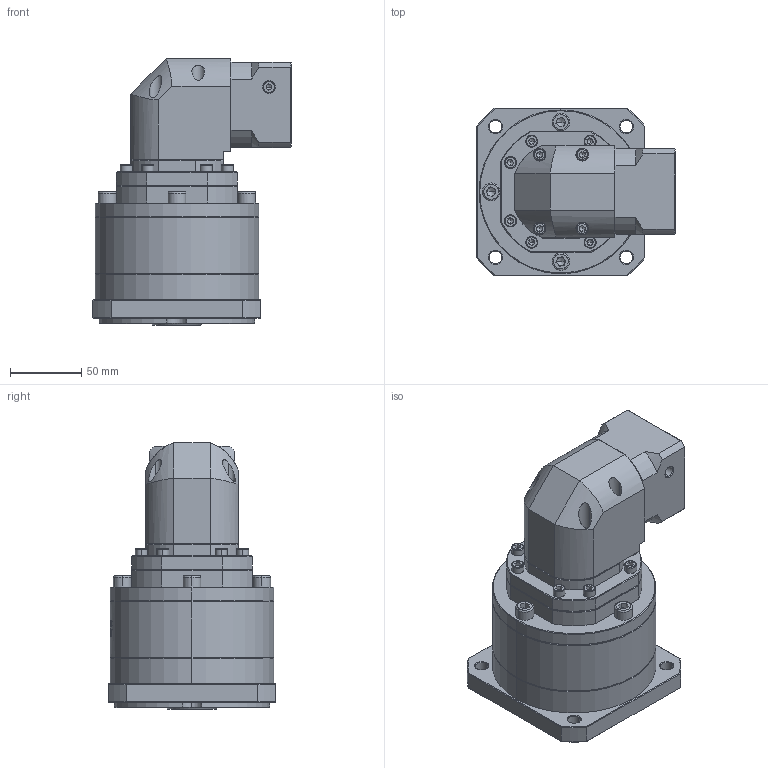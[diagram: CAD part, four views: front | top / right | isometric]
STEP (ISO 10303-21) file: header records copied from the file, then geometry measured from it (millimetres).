
FILE_DESCRIPTION (( 'STEP AP214' ), '1' );
FILE_NAME ('ZFR120A-K25-L3-P2-8-30-46-M4.step', '2023-08-27T09:51:58', ( '' ), ( '' ), 'SwSTEP 2.0', 'SolidWorks 2016', '' );
FILE_SCHEMA (( 'AUTOMOTIVE_DESIGN' ));
Length unit declared in the file: millimetre
Products named in the file (1): ZFR120A-K25-L3-P2-8-30-46-M4
Bounding box: 139.2 x 118 x 187.5 mm (x, y, z)
Volume: 1430248.6 mm3; surface area: 138999.4 mm2
Topology: 6 solids, 6 shells, 2423 faces, 6477 edges, 4175 vertices
Faces by surface type: plane 1163, bspline 490, cylinder 413, cone 337, torus 20
Entity records: 141555 total; most frequent: CARTESIAN_POINT 60056, ORIENTED_EDGE 12866, DIRECTION 9443, EDGE_CURVE 6433, VERTEX_POINT 4175, VECTOR 3345, LINE 3345, AXIS2_PLACEMENT_3D 3049
